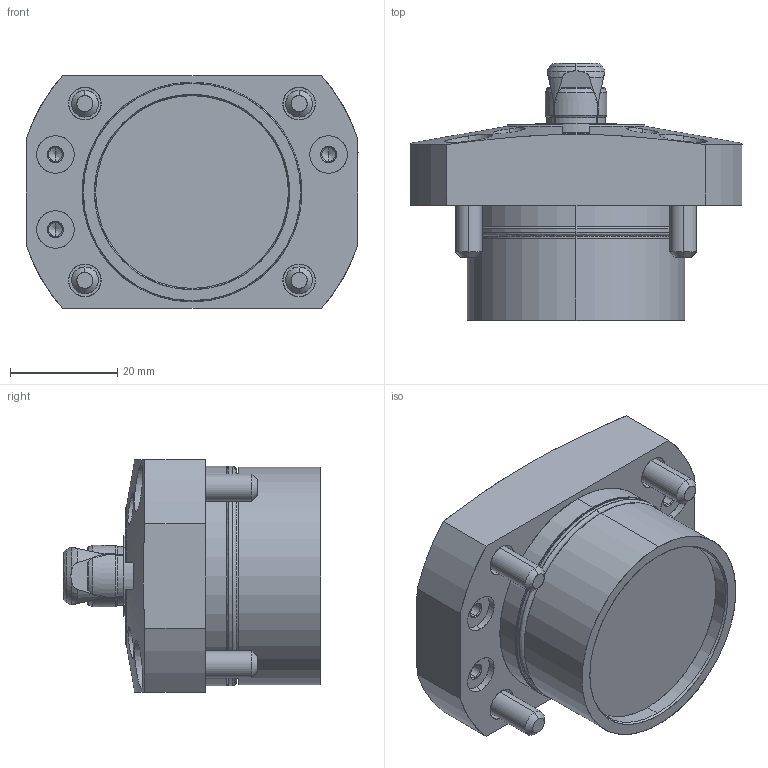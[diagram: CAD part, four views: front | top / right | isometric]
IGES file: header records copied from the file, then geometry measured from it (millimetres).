
Start section: SolidWorks IGES file using analytic representation for surfaces
Global section: file name: L:\電子カタログ-3Ｄ\SFH\ｱｾﾝﾌﾞﾘ\SFH2120.IGS; native system: SolidWorks 2010; preprocessor: SolidWorks 2010; author: D214; date: 101104.081307; units: millimetre
Bounding box: 62 x 48 x 43.5 mm (x, y, z)
Surface area: 21801.6 mm2 (no closed solid volume)
Topology: 0 solids, 0 shells, 493 faces, 6455 edges, 6431 vertices
Faces by surface type: revolution 282, bspline 211
